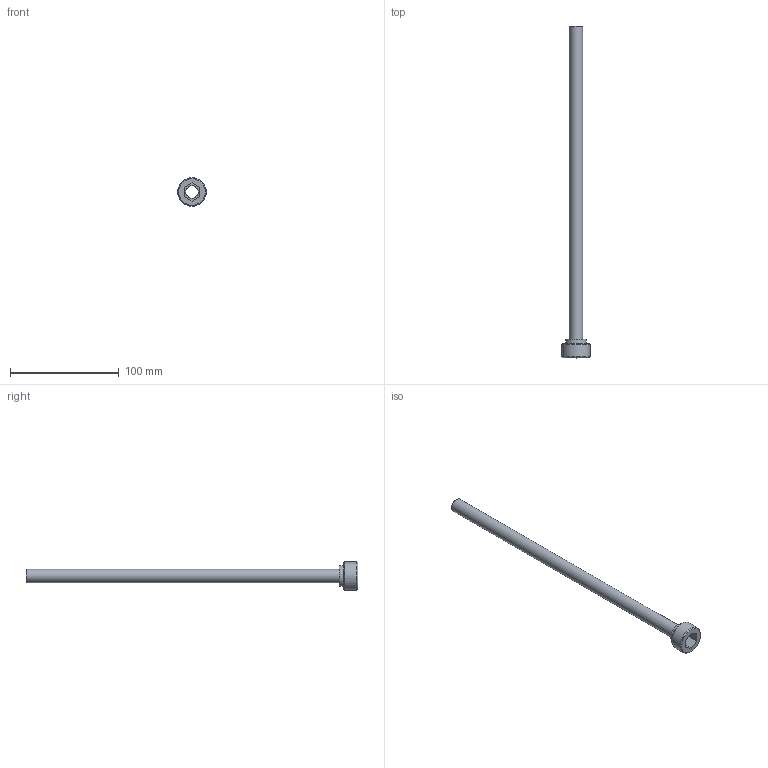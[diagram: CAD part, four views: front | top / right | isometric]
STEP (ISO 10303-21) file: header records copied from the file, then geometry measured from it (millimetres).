
FILE_DESCRIPTION(/* description */ (''),/* implementation_level */ '2;1');
FILE_NAME(/* name */ 'C:/Users/drich/Desktop/PT34-500-12 v1.step',/* time_stamp */ '2019-12-27T15:48:39-06:00',/* author */ (''),/* organization */ (''),/* preprocessor_version */ 'ST-DEVELOPER v18',/* originating_system */ 'Autodesk Translation Framework v8.12.0.6',/* authorisation */ '');
FILE_SCHEMA (('AUTOMOTIVE_DESIGN { 1 0 10303 214 3 1 1 }'));
Length unit declared in the file: inch
Products named in the file (1): PT34-500-12
Bounding box: 26.3 x 304.8 x 26.3 mm (x, y, z)
Volume: 13218.3 mm3; surface area: 24549.8 mm2
Topology: 1 solids, 1 shells, 19 faces, 48 edges, 34 vertices
Faces by surface type: plane 11, cylinder 4, torus 2, cone 2
Full cylindrical faces by diameter (mm): 11.278 x1, 12.7 x1, 19.05 x1, 26.299 x1
Entity records: 633 total; most frequent: DIRECTION 112, CARTESIAN_POINT 102, ORIENTED_EDGE 96, EDGE_CURVE 48, AXIS2_PLACEMENT_3D 44, VERTEX_POINT 34, CIRCLE 24, EDGE_LOOP 24
